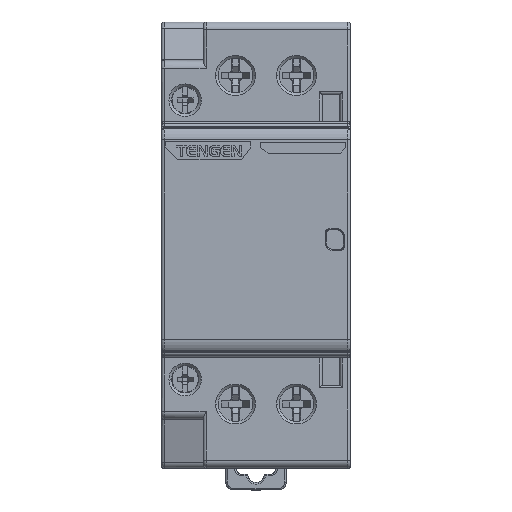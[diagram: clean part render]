
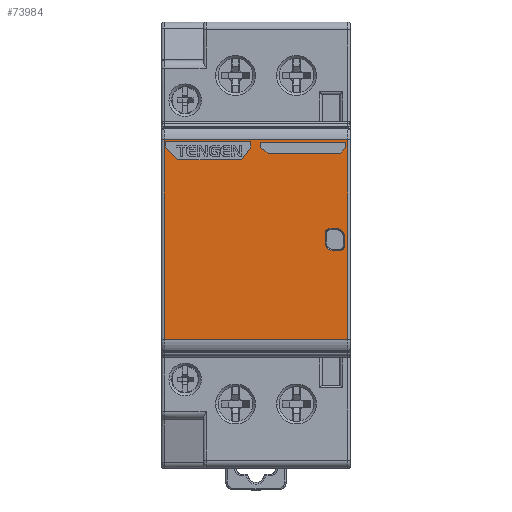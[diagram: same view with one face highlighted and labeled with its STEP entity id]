
A CAD part, top view. The second image highlights one B-rep face of the part: STEP entity #73984.
In plain terms, the highlighted planar face has unit normal (0, 0, 1).
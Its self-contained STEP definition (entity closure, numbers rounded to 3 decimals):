
#19631=DIRECTION('',(0.,-1.,0.));
#19632=VECTOR('',#19631,38.);
#19633=CARTESIAN_POINT('',(-19.4,19.,67.9));
#19634=LINE('',#19633,#19632);
#19635=DIRECTION('',(-1.,0.,0.));
#19636=VECTOR('',#19635,35.);
#19637=CARTESIAN_POINT('',(15.6,19.,67.9));
#19638=LINE('',#19637,#19636);
#19639=DIRECTION('',(0.,1.,0.));
#19640=VECTOR('',#19639,38.);
#19641=CARTESIAN_POINT('',(15.6,-19.,67.9));
#19642=LINE('',#19641,#19640);
#19643=DIRECTION('',(1.,0.,0.));
#19644=VECTOR('',#19643,35.);
#19645=CARTESIAN_POINT('',(-19.4,-19.,67.9));
#19646=LINE('',#19645,#19644);
#19647=CARTESIAN_POINT('',(14.2,-1.35,67.9));
#19648=DIRECTION('',(0.,0.,-1.));
#19649=DIRECTION('',(1.,0.,0.));
#19650=AXIS2_PLACEMENT_3D('',#19647,#19648,#19649);
#19652=DIRECTION('',(0.,-1.,0.));
#19653=VECTOR('',#19652,2.1);
#19654=CARTESIAN_POINT('',(14.9,0.75,
67.9));
#19655=LINE('',#19654,#19653);
#19656=CARTESIAN_POINT('',(13.6,0.75,67.9));
#19657=DIRECTION('',(0.,0.,-1.));
#19658=DIRECTION('',(0.,1.,0.));
#19659=AXIS2_PLACEMENT_3D('',#19656,#19657,#19658);
#19661=DIRECTION('',(1.,0.,0.));
#19662=VECTOR('',#19661,1.6);
#19663=CARTESIAN_POINT('',(12.,2.05,67.9));
#19664=LINE('',#19663,#19662);
#19665=CARTESIAN_POINT('',(12.,1.35,67.9));
#19666=DIRECTION('',(0.,0.,-1.));
#19667=DIRECTION('',(-1.,0.,0.));
#19668=AXIS2_PLACEMENT_3D('',#19665,#19666,#19667);
#19670=DIRECTION('',(0.,1.,0.));
#19671=VECTOR('',#19670,2.1);
#19672=CARTESIAN_POINT('',(11.3,-0.75,
67.9));
#19673=LINE('',#19672,#19671);
#19674=CARTESIAN_POINT('',(12.6,-0.75,67.9));
#19675=DIRECTION('',(0.,0.,-1.));
#19676=DIRECTION('',(0.,-1.,0.));
#19677=AXIS2_PLACEMENT_3D('',#19674,#19675,#19676);
#19679=DIRECTION('',(-1.,0.,0.));
#19680=VECTOR('',#19679,1.6);
#19681=CARTESIAN_POINT('',(14.2,-2.05,
67.9));
#19682=LINE('',#19681,#19680);
#19683=DIRECTION('',(0.,-1.,0.));
#19684=VECTOR('',#19683,1.03);
#19685=CARTESIAN_POINT('',(-19.065,18.661,67.9));
#19686=LINE('',#19685,#19684);
#19687=DIRECTION('',(0.677,-0.736,0.));
#19688=VECTOR('',#19687,3.315);
#19689=CARTESIAN_POINT('',(-19.065,17.631,67.9));
#19690=LINE('',#19689,#19688);
#19691=DIRECTION('',(1.,0.,0.));
#19692=VECTOR('',#19691,12.17);
#19693=CARTESIAN_POINT('',(-16.82,15.191,67.9));
#19694=LINE('',#19693,#19692);
#19695=DIRECTION('',(0.591,0.807,0.));
#19696=VECTOR('',#19695,3.024);
#19697=CARTESIAN_POINT('',(-4.65,15.191,67.9));
#19698=LINE('',#19697,#19696);
#19699=DIRECTION('',(0.,1.,0.));
#19700=VECTOR('',#19699,1.03);
#19701=CARTESIAN_POINT('',(-2.865,17.631,67.9));
#19702=LINE('',#19701,#19700);
#19703=DIRECTION('',(-1.,0.,0.));
#19704=VECTOR('',#19703,16.2);
#19705=CARTESIAN_POINT('',(-2.865,18.661,67.9));
#19706=LINE('',#19705,#19704);
#19707=DIRECTION('',(0.807,-0.591,0.));
#19708=VECTOR('',#19707,1.879);
#19709=CARTESIAN_POINT('',(-1.096,17.564,67.9));
#19710=LINE('',#19709,#19708);
#19711=DIRECTION('',(1.,0.,0.));
#19712=VECTOR('',#19711,13.872);
#19713=CARTESIAN_POINT('',(0.42,16.454,67.9));
#19714=LINE('',#19713,#19712);
#19715=DIRECTION('',(0.591,0.807,0.));
#19716=VECTOR('',#19715,1.375);
#19717=CARTESIAN_POINT('',(14.292,16.454,67.9));
#19718=LINE('',#19717,#19716);
#19719=DIRECTION('',(0.,1.,0.));
#19720=VECTOR('',#19719,1.03);
#19721=CARTESIAN_POINT('',(15.104,17.564,67.9));
#19722=LINE('',#19721,#19720);
#19723=DIRECTION('',(-1.,0.,0.));
#19724=VECTOR('',#19723,16.2);
#19725=CARTESIAN_POINT('',(15.104,18.594,67.9));
#19726=LINE('',#19725,#19724);
#19727=DIRECTION('',(0.,-1.,0.));
#19728=VECTOR('',#19727,1.03);
#19729=CARTESIAN_POINT('',(-1.096,18.594,67.9));
#19730=LINE('',#19729,#19728);
#50129=CARTESIAN_POINT('',(-19.4,-19.,67.9));
#50130=VERTEX_POINT('',#50129);
#50133=CARTESIAN_POINT('',(-19.4,19.,67.9));
#50134=VERTEX_POINT('',#50133);
#50321=CARTESIAN_POINT('',(15.6,19.,67.9));
#50322=VERTEX_POINT('',#50321);
#50325=CARTESIAN_POINT('',(15.6,-19.,67.9));
#50326=VERTEX_POINT('',#50325);
#51043=CARTESIAN_POINT('',(14.9,-1.35,67.9));
#51044=CARTESIAN_POINT('',(14.2,-2.05,67.9));
#51045=VERTEX_POINT('',#51043);
#51046=VERTEX_POINT('',#51044);
#51051=CARTESIAN_POINT('',(12.6,-2.05,
67.9));
#51052=VERTEX_POINT('',#51051);
#51053=CARTESIAN_POINT('',(11.3,-0.75,67.9));
#51054=VERTEX_POINT('',#51053);
#51059=CARTESIAN_POINT('',(11.3,1.35,67.9));
#51060=VERTEX_POINT('',#51059);
#51061=CARTESIAN_POINT('',(12.,2.05,67.9));
#51062=VERTEX_POINT('',#51061);
#51067=CARTESIAN_POINT('',(13.6,2.05,67.9));
#51068=VERTEX_POINT('',#51067);
#51069=CARTESIAN_POINT('',(14.9,0.75,67.9));
#51070=VERTEX_POINT('',#51069);
#51587=CARTESIAN_POINT('',(-19.065,18.661,67.9));
#51588=CARTESIAN_POINT('',(-19.065,17.631,67.9));
#51589=VERTEX_POINT('',#51587);
#51590=VERTEX_POINT('',#51588);
#51591=CARTESIAN_POINT('',(-16.82,15.191,67.9));
#51592=VERTEX_POINT('',#51591);
#51593=CARTESIAN_POINT('',(-4.65,15.191,67.9));
#51594=VERTEX_POINT('',#51593);
#51595=CARTESIAN_POINT('',(-2.865,17.631,67.9));
#51596=VERTEX_POINT('',#51595);
#51597=CARTESIAN_POINT('',(-2.865,18.661,67.9));
#51598=VERTEX_POINT('',#51597);
#51599=CARTESIAN_POINT('',(-1.096,17.564,67.9));
#51600=CARTESIAN_POINT('',(0.42,16.454,67.9));
#51601=VERTEX_POINT('',#51599);
#51602=VERTEX_POINT('',#51600);
#51603=CARTESIAN_POINT('',(14.292,16.454,67.9));
#51604=VERTEX_POINT('',#51603);
#51605=CARTESIAN_POINT('',(15.104,17.564,67.9));
#51606=VERTEX_POINT('',#51605);
#51607=CARTESIAN_POINT('',(15.104,18.594,67.9));
#51608=VERTEX_POINT('',#51607);
#51609=CARTESIAN_POINT('',(-1.096,18.594,67.9));
#51610=VERTEX_POINT('',#51609);
#73925=CARTESIAN_POINT('',(0.,0.,67.9));
#73926=DIRECTION('',(0.,0.,1.));
#73927=DIRECTION('',(1.,0.,0.));
#73928=AXIS2_PLACEMENT_3D('',#73925,#73926,#73927);
#73929=PLANE('',#73928);
#73930=ORIENTED_EDGE('',*,*,#73916,.F.);
#73932=ORIENTED_EDGE('',*,*,#73931,.F.);
#73934=ORIENTED_EDGE('',*,*,#73933,.F.);
#73935=ORIENTED_EDGE('',*,*,#73890,.F.);
#73936=EDGE_LOOP('',(#73930,#73932,#73934,#73935));
#73937=FACE_OUTER_BOUND('',#73936,.F.);
#73939=ORIENTED_EDGE('',*,*,#73938,.F.);
#73941=ORIENTED_EDGE('',*,*,#73940,.F.);
#73943=ORIENTED_EDGE('',*,*,#73942,.F.);
#73945=ORIENTED_EDGE('',*,*,#73944,.F.);
#73947=ORIENTED_EDGE('',*,*,#73946,.F.);
#73949=ORIENTED_EDGE('',*,*,#73948,.F.);
#73951=ORIENTED_EDGE('',*,*,#73950,.F.);
#73953=ORIENTED_EDGE('',*,*,#73952,.F.);
#73954=EDGE_LOOP('',(#73939,#73941,#73943,#73945,#73947,#73949,#73951,#73953));
#73955=FACE_BOUND('',#73954,.F.);
#73957=ORIENTED_EDGE('',*,*,#73956,.T.);
#73959=ORIENTED_EDGE('',*,*,#73958,.T.);
#73961=ORIENTED_EDGE('',*,*,#73960,.T.);
#73963=ORIENTED_EDGE('',*,*,#73962,.T.);
#73965=ORIENTED_EDGE('',*,*,#73964,.T.);
#73967=ORIENTED_EDGE('',*,*,#73966,.T.);
#73968=EDGE_LOOP('',(#73957,#73959,#73961,#73963,#73965,#73967));
#73969=FACE_BOUND('',#73968,.F.);
#73971=ORIENTED_EDGE('',*,*,#73970,.T.);
#73973=ORIENTED_EDGE('',*,*,#73972,.T.);
#73975=ORIENTED_EDGE('',*,*,#73974,.T.);
#73977=ORIENTED_EDGE('',*,*,#73976,.T.);
#73979=ORIENTED_EDGE('',*,*,#73978,.T.);
#73981=ORIENTED_EDGE('',*,*,#73980,.T.);
#73982=EDGE_LOOP('',(#73971,#73973,#73975,#73977,#73979,#73981));
#73983=FACE_BOUND('',#73982,.F.);
#73984=ADVANCED_FACE('',(#73937,#73955,#73969,#73983),#73929,.T.);
#19651=CIRCLE('',#19650,0.7);
#19660=CIRCLE('',#19659,1.3);
#19669=CIRCLE('',#19668,0.7);
#19678=CIRCLE('',#19677,1.3);
#73890=EDGE_CURVE('',#50130,#50326,#19646,.T.);
#73916=EDGE_CURVE('',#50134,#50130,#19634,.T.);
#73931=EDGE_CURVE('',#50322,#50134,#19638,.T.);
#73933=EDGE_CURVE('',#50326,#50322,#19642,.T.);
#73938=EDGE_CURVE('',#51045,#51046,#19651,.T.);
#73940=EDGE_CURVE('',#51070,#51045,#19655,.T.);
#73942=EDGE_CURVE('',#51068,#51070,#19660,.T.);
#73944=EDGE_CURVE('',#51062,#51068,#19664,.T.);
#73946=EDGE_CURVE('',#51060,#51062,#19669,.T.);
#73948=EDGE_CURVE('',#51054,#51060,#19673,.T.);
#73950=EDGE_CURVE('',#51052,#51054,#19678,.T.);
#73952=EDGE_CURVE('',#51046,#51052,#19682,.T.);
#73956=EDGE_CURVE('',#51589,#51590,#19686,.T.);
#73958=EDGE_CURVE('',#51590,#51592,#19690,.T.);
#73960=EDGE_CURVE('',#51592,#51594,#19694,.T.);
#73962=EDGE_CURVE('',#51594,#51596,#19698,.T.);
#73964=EDGE_CURVE('',#51596,#51598,#19702,.T.);
#73966=EDGE_CURVE('',#51598,#51589,#19706,.T.);
#73970=EDGE_CURVE('',#51601,#51602,#19710,.T.);
#73972=EDGE_CURVE('',#51602,#51604,#19714,.T.);
#73974=EDGE_CURVE('',#51604,#51606,#19718,.T.);
#73976=EDGE_CURVE('',#51606,#51608,#19722,.T.);
#73978=EDGE_CURVE('',#51608,#51610,#19726,.T.);
#73980=EDGE_CURVE('',#51610,#51601,#19730,.T.);
